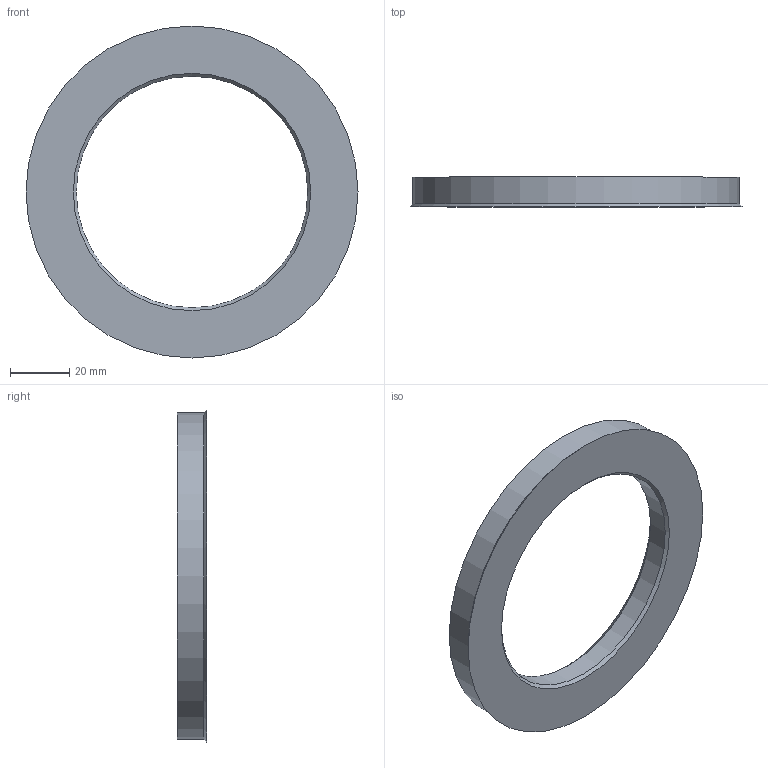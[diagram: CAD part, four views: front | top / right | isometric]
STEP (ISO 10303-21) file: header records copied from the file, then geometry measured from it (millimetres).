
FILE_DESCRIPTION(/* description */ (''),/* implementation_level */ '2;1');
FILE_NAME(/* name */ 'G:\CAD Library\Team Tasks\DIPP\11th Intake\Bradley Coles\Design Drafting\Random\Hub Rings\ipt\HubRing_110-78.1.stp',/* time_stamp */ '2025-07-22T13:41:38+08:00',/* author */ ('BCOLES'),/* organization */ (''),/* preprocessor_version */ 'ST-DEVELOPER v18.1',/* originating_system */ 'Autodesk Inventor 2022',/* authorisation */ '');
FILE_SCHEMA (('AUTOMOTIVE_DESIGN { 1 0 10303 214 3 1 1 }'));
Length unit declared in the file: millimetre
Products named in the file (1): HubRing_110-78.1
Bounding box: 112 x 10 x 112 mm (x, y, z)
Volume: 46678 mm3; surface area: 15406.4 mm2
Topology: 1 solids, 1 shells, 7 faces, 13 edges, 8 vertices
Faces by surface type: cone 3, cylinder 2, plane 2
Full cylindrical faces by diameter (mm): 78.1 x1, 110 x1
Entity records: 226 total; most frequent: DIRECTION 37, CARTESIAN_POINT 29, ORIENTED_EDGE 26, AXIS2_PLACEMENT_3D 16, EDGE_CURVE 13, EDGE_LOOP 9, CIRCLE 8, VERTEX_POINT 8
